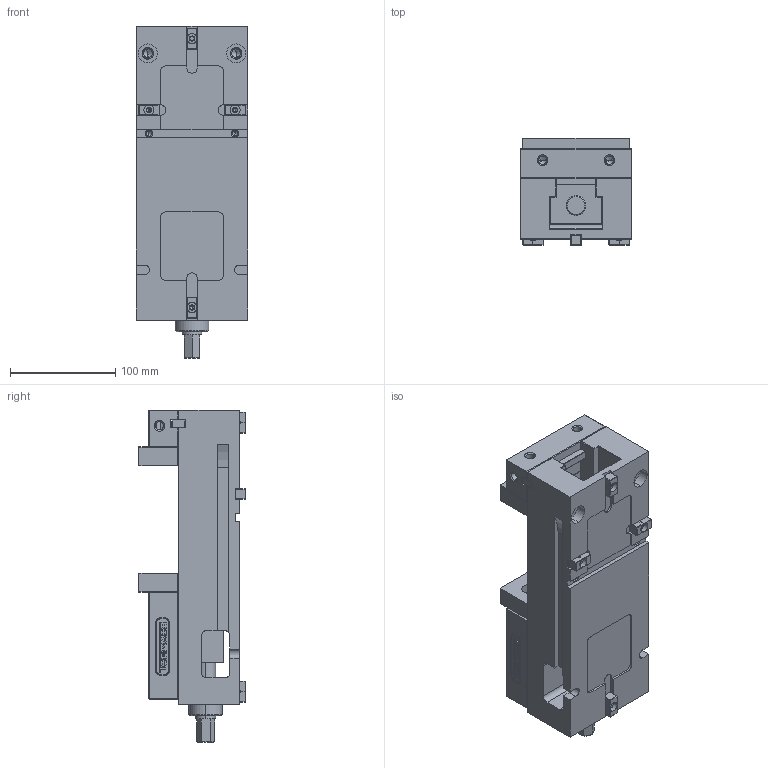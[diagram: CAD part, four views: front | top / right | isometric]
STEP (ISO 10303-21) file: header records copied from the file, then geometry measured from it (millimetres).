
FILE_DESCRIPTION (( 'STEP AP214' ), '1' );
FILE_NAME ('35285A 4-INCH CNC VISE.STEP', '2016-05-26T19:38:36', ( '' ), ( '' ), 'SwSTEP 2.0', 'SolidWorks 2014', '' );
FILE_SCHEMA (( 'AUTOMOTIVE_DESIGN' ));
Length unit declared in the file: millimetre
Products named in the file (8): 35285-3 JAW KEY; 35285-2 FIXED JAW; 35285-1 BASE; 35285A 4-INCH CNC VISE; 35285-7 10mm KEY; 35285-6 LEAD SCREW; 35285-5 SOFT JAW; 35285-4 MOVABLE JAW
Assembly tree (11 placements, depth 2):
  35285A 4-INCH CNC VISE
    35285-1 BASE
    35285-2 FIXED JAW
    35285-3 JAW KEY
    35285-4 MOVABLE JAW
    35285-5 SOFT JAW  x2
    35285-6 LEAD SCREW
    35285-7 10mm KEY  x4
Bounding box: 106 x 102 x 316 mm (x, y, z)
Volume: 1881921.5 mm3; surface area: 281367.3 mm2
Topology: 11 solids, 11 shells, 1140 faces, 2939 edges, 1864 vertices
Faces by surface type: plane 685, bspline 275, cylinder 108, cone 72
Entity records: 36719 total; most frequent: CARTESIAN_POINT 11411, ORIENTED_EDGE 4328, DIRECTION 3272, EDGE_CURVE 2164, VECTOR 1520, LINE 1520, VERTEX_POINT 1390, EDGE_LOOP 912
